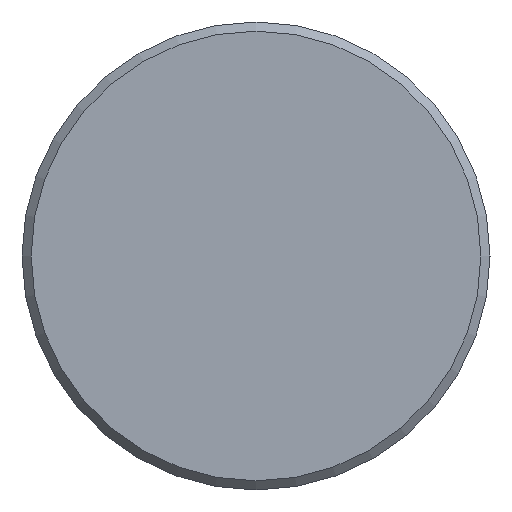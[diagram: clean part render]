
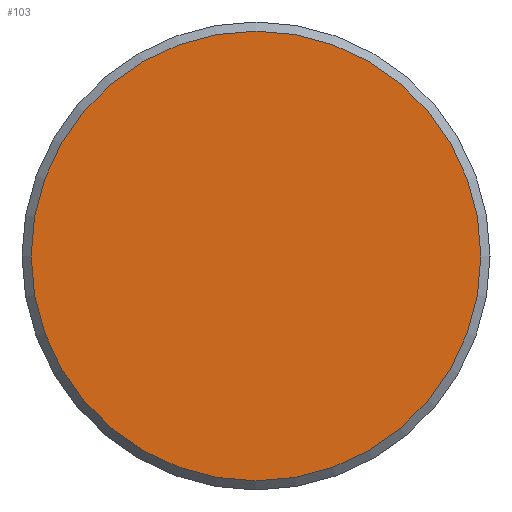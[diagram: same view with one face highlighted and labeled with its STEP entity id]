
A CAD part, left-side view. The second image highlights one B-rep face of the part: STEP entity #103.
In plain terms, the highlighted planar face has unit normal (-1, 0, 0).
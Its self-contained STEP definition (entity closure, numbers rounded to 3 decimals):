
#16=PLANE('',#138);
#30=FACE_OUTER_BOUND('',#36,.T.);
#36=EDGE_LOOP('',(#89));
#45=CIRCLE('',#137,24.5);
#53=VERTEX_POINT('',#197);
#65=EDGE_CURVE('',#53,#53,#45,.T.);
#89=ORIENTED_EDGE('',*,*,#65,.F.);
#103=ADVANCED_FACE('',(#30),#16,.F.);
#137=AXIS2_PLACEMENT_3D('',#199,#170,#171);
#138=AXIS2_PLACEMENT_3D('',#200,#172,#173);
#170=DIRECTION('center_axis',(1.,0.,0.));
#171=DIRECTION('ref_axis',(0.,-1.,0.));
#172=DIRECTION('center_axis',(1.,0.,0.));
#173=DIRECTION('ref_axis',(0.,0.,-1.));
#197=CARTESIAN_POINT('',(0.,24.5,0.));
#199=CARTESIAN_POINT('Origin',(0.,0.,0.));
#200=CARTESIAN_POINT('Origin',(0.,0.,0.));
